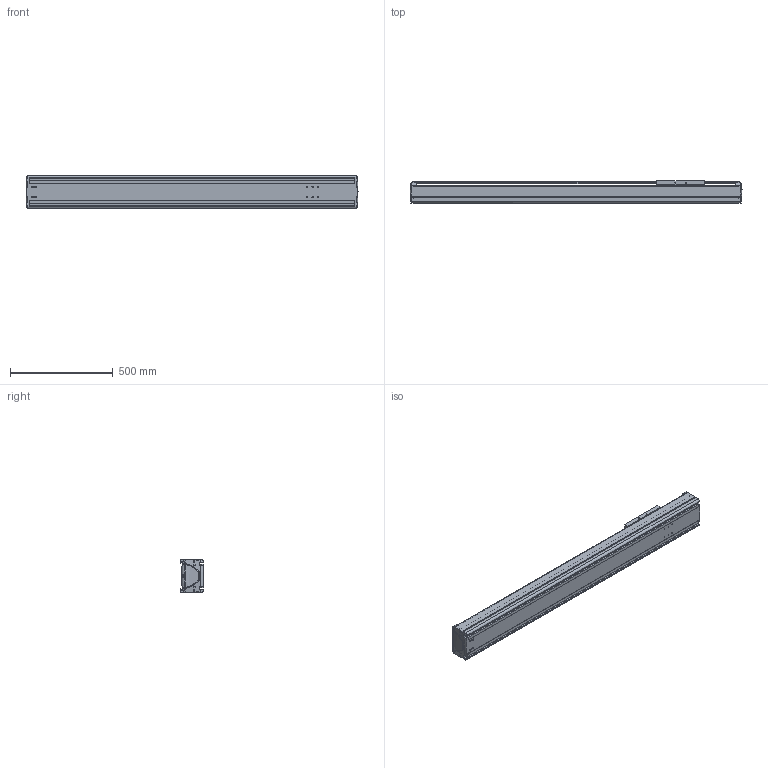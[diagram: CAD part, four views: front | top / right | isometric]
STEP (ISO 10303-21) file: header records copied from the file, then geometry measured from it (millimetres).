
FILE_DESCRIPTION((''),'2;1');
FILE_NAME('BE50G-ST-L_B-B5_IGS_PRT','2017-06-18T',(' '),(''),'PRO/ENGINEER BY PARAMETRIC TECHNOLOGY CORPORATION, 2015030','PRO/ENGINEER BY PARAMETRIC TECHNOLOGY CORPORATION, 2015030','');
FILE_SCHEMA(('CONFIG_CONTROL_DESIGN'));
Length unit declared in the file: millimetre
Products named in the file (1): BE50G-ST-L_B-B5_IGS_PRT
Bounding box: 1614.98 x 110 x 160 mm (x, y, z)
Volume: 7165374.9 mm3; surface area: 2448692.1 mm2
Topology: 2 solids, 99 shells, 1724 faces, 4608 edges, 2955 vertices
Faces by surface type: cylinder 772, plane 637, bspline 102, torus 87, cone 86, sphere 40
Entity records: 59551 total; most frequent: CARTESIAN_POINT 17118, ORIENTED_EDGE 8752, DIRECTION 8652, EDGE_CURVE 4570, AXIS2_PLACEMENT_3D 3244, VERTEX_POINT 2947, VECTOR 2164, LINE 2164
